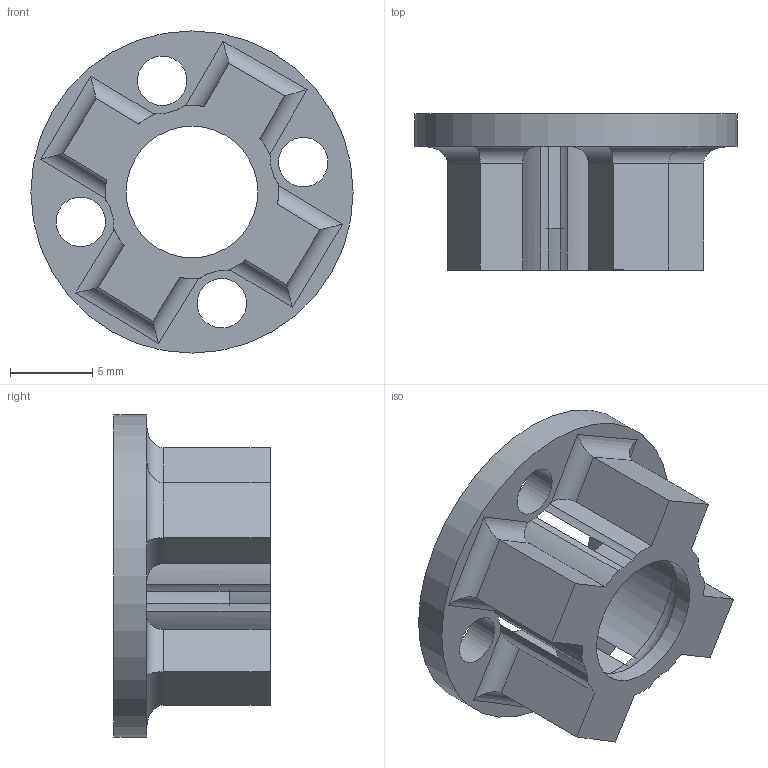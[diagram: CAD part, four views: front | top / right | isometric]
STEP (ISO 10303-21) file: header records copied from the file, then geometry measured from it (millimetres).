
FILE_DESCRIPTION(/* description */ ('STEP AP242 Edition 2','CAx-IF Rec.Pracs.---Representation and Presentation of Product Manufacturing Information (PMI)---4.0---2014-10-13','CAx-IF Rec.Pracs.---3D Tessellated Geometry---0.4---2014-09-14','2;1','CAx-IF Rec.Pracs.---User Defined Attributes---1.5---2016-08-15'),/* implementation_level */ '2;1');
FILE_NAME(/* name */ 'Assembly 1 - Servo',/* time_stamp */ '2026-08-25T13:00:48Z',/* author */ (''),/* organization */ (''),/* preprocessor_version */ 'ST-DEVELOPER v20',/* originating_system */ 'ONSHAPE BY PTC INC, 1.219',/* authorisation */ ' ');
FILE_SCHEMA (('AP242_MANAGED_MODEL_BASED_3D_ENGINEERING_MIM_LF { 1 0 10303 442 3 1 4 }'));
Length unit declared in the file: metre
Products named in the file (1): Servo
Bounding box: 19.58 x 9.5 x 19.58 mm (x, y, z)
Volume: 802.3 mm3; surface area: 1297.1 mm2
Topology: 1 solids, 1 shells, 55 faces, 167 edges, 107 vertices
Faces by surface type: cylinder 39, plane 15, torus 1
Full cylindrical faces by diameter (mm): 3 x4, 8 x1, 10.1 x1, 19.577 x1
Entity records: 1866 total; most frequent: CARTESIAN_POINT 342, DIRECTION 326, ORIENTED_EDGE 306, EDGE_CURVE 153, AXIS2_PLACEMENT_3D 125, VERTEX_POINT 101, LINE 76, VECTOR 76
